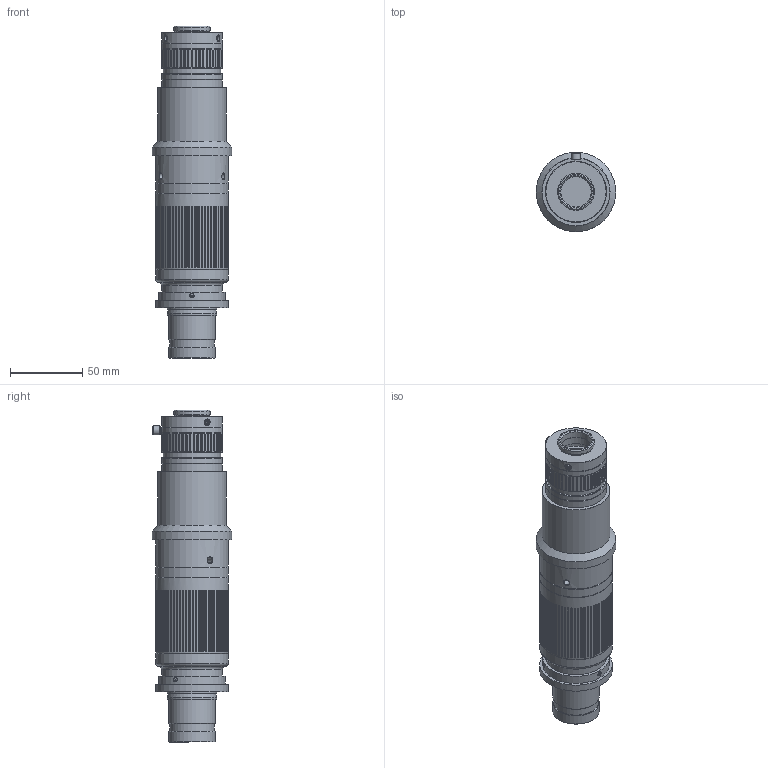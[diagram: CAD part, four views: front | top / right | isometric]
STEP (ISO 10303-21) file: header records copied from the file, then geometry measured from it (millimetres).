
FILE_DESCRIPTION(('STEP AP214'),'1');
FILE_NAME('SDS-KFZH.stp','2026-03-26T07:11:03',(' '),(' '),'Spatial InterOp 3D',' ',' ');
FILE_SCHEMA(('AUTOMOTIVE_DESIGN { 1 0 10303 214 1 1 1 1 }'));
Length unit declared in the file: metre
Products named in the file (2): SDS-KFZH; Component1
Assembly tree (1 placements, depth 2):
  SDS-KFZH
    Component1
Bounding box: 55 x 55 x 229 mm (x, y, z)
Volume: 337510.6 mm3; surface area: 45382.4 mm2
Topology: 1 solids, 1 shells, 1248 faces, 2770 edges, 1678 vertices
Faces by surface type: cylinder 513, sphere 476, plane 206, cone 45, bspline 6, torus 2
Full cylindrical faces by diameter (mm): 3 x4, 4 x6, 6.3 x1, 21 x1, 24.2 x1, 25 x2, 25.4 x1, 30 x1, 31 x1, 32 x2, 34 x2, 39.8 x1, 42 x6, 46 x1, 47 x1, 50 x5, 55 x1
Entity records: 62308 total; most frequent: CARTESIAN_POINT 12704, DIRECTION 5432, ORIENTED_EDGE 5310, STYLED_ITEM 3904, PRESENTATION_STYLE_ASSIGNMENT 3904, COLOUR_RGB 3904, EDGE_CURVE 2655, CURVE_STYLE 2655
